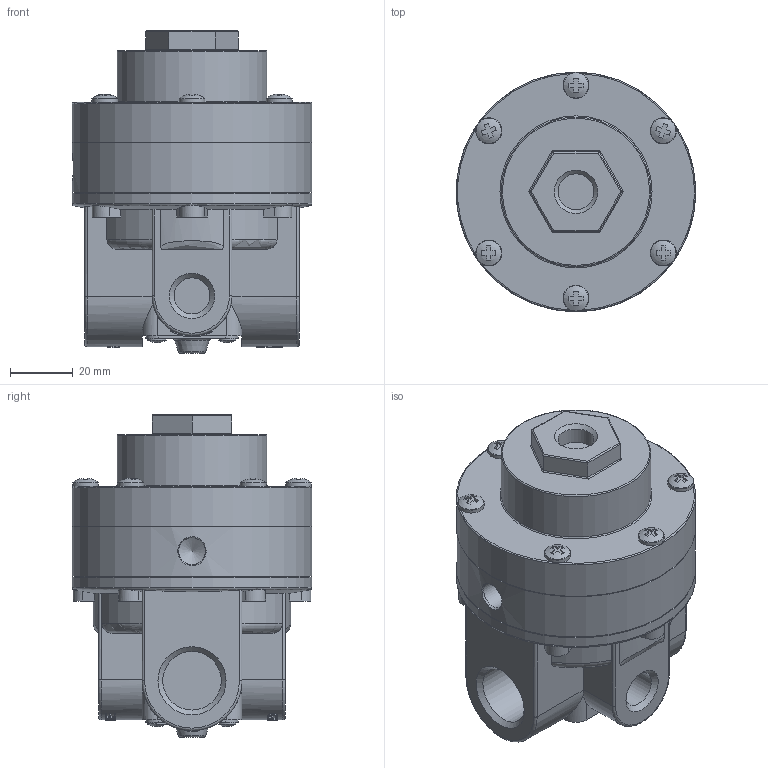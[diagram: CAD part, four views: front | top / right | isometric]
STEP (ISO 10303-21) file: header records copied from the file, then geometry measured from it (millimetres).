
FILE_DESCRIPTION(/* description */ (''),/* implementation_level */ '2;1');
FILE_NAME(/* name */ 'U:/AirCom-Produktdokumentation/Volumenstrombooster/R750/Zeichnungen/CAD-Aircom/3D/B-R750-04.step',/* time_stamp */ '2022-06-27T11:45:15+02:00',/* author */ (''),/* organization */ (''),/* preprocessor_version */ 'ST-DEVELOPER v19',/* originating_system */ 'Autodesk Translation Framework v11.7.0.108',/* authorisation */ '');
FILE_SCHEMA (('AUTOMOTIVE_DESIGN { 1 0 10303 214 3 1 1 }'));
Length unit declared in the file: inch
Products named in the file (1): T600-DA
Bounding box: 76.2 x 76.2 x 102.77 mm (x, y, z)
Volume: 278750.8 mm3; surface area: 43494.2 mm2
Topology: 3 solids, 5 shells, 598 faces, 1627 edges, 1069 vertices
Faces by surface type: plane 321, cylinder 127, bspline 99, cone 25, torus 20, sphere 6
Full cylindrical faces by diameter (mm): 3.302 x6, 8.255 x6, 8.56 x1, 11.43 x1, 11.455 x2, 18.644 x2, 47.65 x1, 76.2 x3
Entity records: 22491 total; most frequent: CARTESIAN_POINT 7187, ORIENTED_EDGE 3240, DIRECTION 2851, EDGE_CURVE 1620, VERTEX_POINT 1069, AXIS2_PLACEMENT_3D 1029, LINE 793, VECTOR 793
